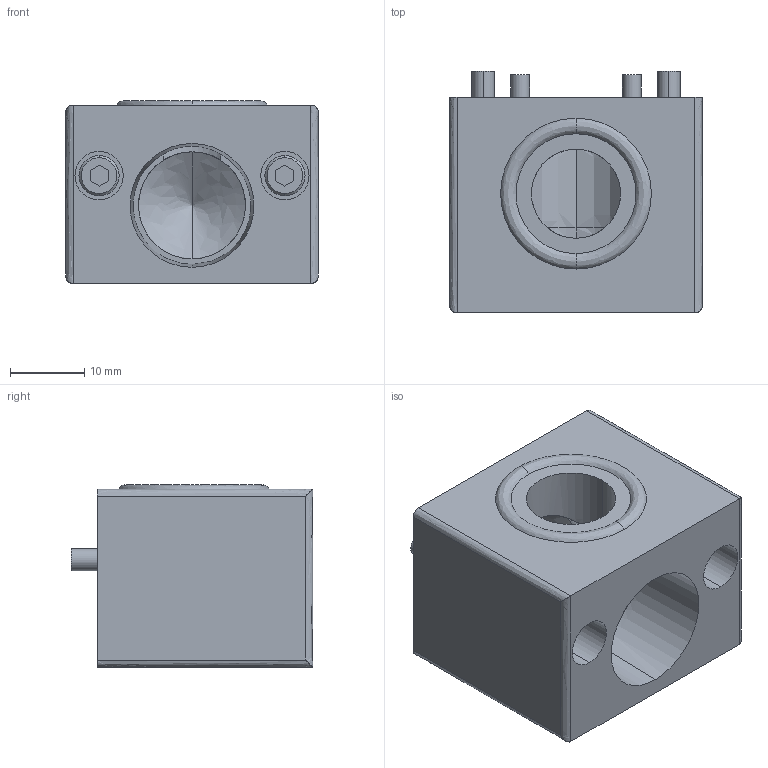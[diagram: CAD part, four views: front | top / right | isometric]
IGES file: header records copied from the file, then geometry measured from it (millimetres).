
Start section: 3D InterOp IGES (v. 2022 1.0.0), Spatial Corp. Copyright (c) 1999-2020.
Global section: file name: KHF-12HS-EP101_ver1.igs; native system: Spatial Corp.; preprocessor: 3D InterOp GENERIC/IGES 3.0; author: Noname; organization: Noname; date: 20260427.125026; units: millimetre
Bounding box: 34 x 32.5 x 24.6 mm (x, y, z)
Surface area: 7504.4 mm2 (no closed solid volume)
Topology: 0 solids, 0 shells, 84 faces, 374 edges, 372 vertices
Faces by surface type: revolution 48, extrusion 36
